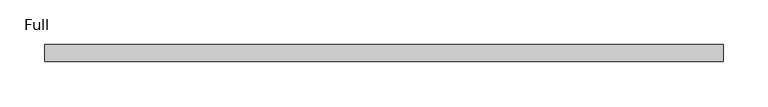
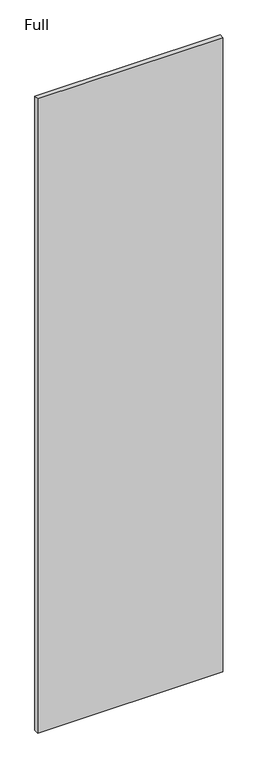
"""IFC4 building model written with IfcOpenShell, lengths in millimetres: proxy geometry, Panel-Fascia-Teknion-Altos-Standard : Full."""

from ifc_helpers import new_model, si_unit, frame, origin, place, context, project, spatial, polyline, outline, extrude, source, transform, mapped, element, save


def full_3f1e97c4(model_context):
    return source(origin(), model_context, "Body", "SweptSolid", [
        extrude(outline(polyline([(378.4203125, -9.525), (-378.4203125, -9.525), (-378.4203125, 9.525), (378.4203125, 9.525), (378.4203125, -9.525)])), frame((0.0, 0.0, 3.175), z_axis=(0.0, 0.0, 1.0), x_axis=(1.0, 0.0, 0.0)), (0.0, 0.0, 1.0), 2739.136),
    ])


if __name__ == "__main__":
    model = new_model("IFC4")
    model_context = context("Model", 3, world=origin())
    ifc_project = project(units=[si_unit("LENGTHUNIT", "METRE", prefix="MILLI")], contexts=[model_context])
    site = spatial("IfcSite", under=ifc_project)
    building = spatial("IfcBuilding", under=site)
    placement = place(None, origin())
    full_shape = full_3f1e97c4(model_context)
    element("IfcBuildingElementProxy", 1, Name="Panel-Fascia-Teknion-Altos-Standard : Full", ObjectType="Panel-Fascia-Teknion-Altos-Standard : Full", at=placement, inside=building, context=model_context, shape_type="MappedRepresentation", body=[
        mapped(full_shape, transform((0.0, 0.0, 0.0), x_axis=(1.0, 0.0, 0.0), y_axis=(0.0, 1.0, 0.0), z_axis=(0.0, 0.0, 1.0))),
    ])
    save(model, "model.ifc")
